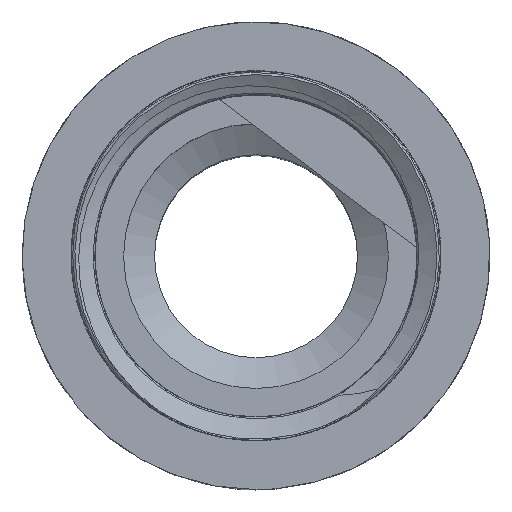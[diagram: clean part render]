
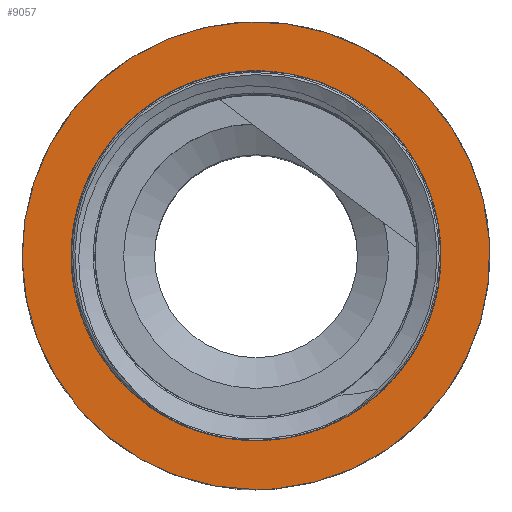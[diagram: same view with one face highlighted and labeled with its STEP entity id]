
A CAD part, top view. The second image highlights one B-rep face of the part: STEP entity #9057.
In plain terms, the highlighted planar face has unit normal (0, 0, 1).
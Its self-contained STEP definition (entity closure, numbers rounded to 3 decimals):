
#55=FACE_BOUND('',#2195,.T.);
#1203=PLANE('',#9423);
#1662=FACE_OUTER_BOUND('',#2194,.T.);
#2194=EDGE_LOOP('',(#8286,#8287));
#2195=EDGE_LOOP('',(#8288,#8289));
#3401=CIRCLE('',#9421,10.475);
#3402=CIRCLE('',#9422,10.475);
#3403=CIRCLE('',#9424,13.25);
#3404=CIRCLE('',#9425,13.25);
#4334=VERTEX_POINT('',#21020);
#4335=VERTEX_POINT('',#21022);
#4336=VERTEX_POINT('',#21026);
#4337=VERTEX_POINT('',#21027);
#5684=EDGE_CURVE('',#4335,#4334,#3401,.T.);
#5685=EDGE_CURVE('',#4334,#4335,#3402,.T.);
#5686=EDGE_CURVE('',#4336,#4337,#3403,.T.);
#5687=EDGE_CURVE('',#4337,#4336,#3404,.T.);
#8286=ORIENTED_EDGE('',*,*,#5686,.F.);
#8287=ORIENTED_EDGE('',*,*,#5687,.F.);
#8288=ORIENTED_EDGE('',*,*,#5684,.T.);
#8289=ORIENTED_EDGE('',*,*,#5685,.T.);
#9057=ADVANCED_FACE('',(#1662,#55),#1203,.T.);
#9421=AXIS2_PLACEMENT_3D('',#21023,#10600,#10601);
#9422=AXIS2_PLACEMENT_3D('',#21024,#10602,#10603);
#9423=AXIS2_PLACEMENT_3D('',#21025,#10604,#10605);
#9424=AXIS2_PLACEMENT_3D('',#21028,#10606,#10607);
#9425=AXIS2_PLACEMENT_3D('',#21029,#10608,#10609);
#10600=DIRECTION('center_axis',(0.,0.,-1.));
#10601=DIRECTION('ref_axis',(1.,0.,0.));
#10602=DIRECTION('center_axis',(0.,0.,-1.));
#10603=DIRECTION('ref_axis',(1.,0.,0.));
#10604=DIRECTION('center_axis',(0.,0.,1.));
#10605=DIRECTION('ref_axis',(1.,0.,0.));
#10606=DIRECTION('center_axis',(0.,0.,-1.));
#10607=DIRECTION('ref_axis',(1.,0.,0.));
#10608=DIRECTION('center_axis',(0.,0.,-1.));
#10609=DIRECTION('ref_axis',(1.,0.,0.));
#21020=CARTESIAN_POINT('',(0.,-10.475,48.));
#21022=CARTESIAN_POINT('',(0.,10.475,48.));
#21023=CARTESIAN_POINT('Origin',(0.,0.,48.));
#21024=CARTESIAN_POINT('Origin',(0.,0.,48.));
#21025=CARTESIAN_POINT('Origin',(0.,13.25,48.));
#21026=CARTESIAN_POINT('',(1.135,-13.201,48.));
#21027=CARTESIAN_POINT('',(0.,-13.25,48.));
#21028=CARTESIAN_POINT('Origin',(0.,0.,48.));
#21029=CARTESIAN_POINT('Origin',(0.,0.,48.));
